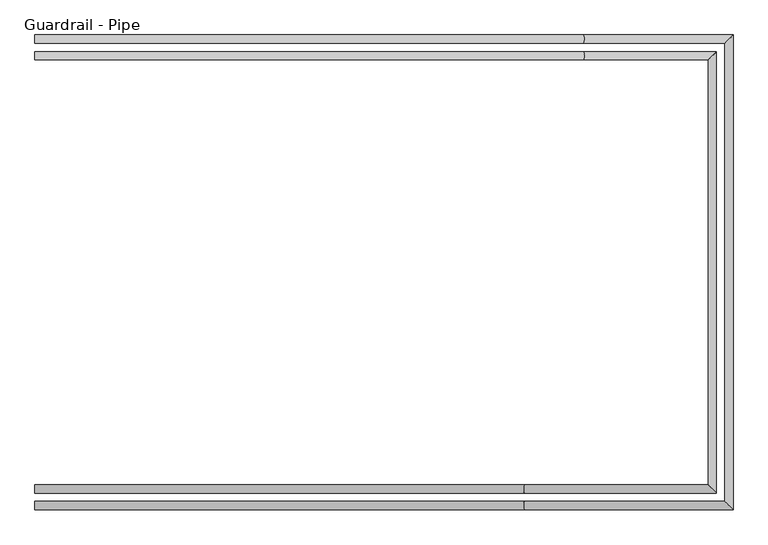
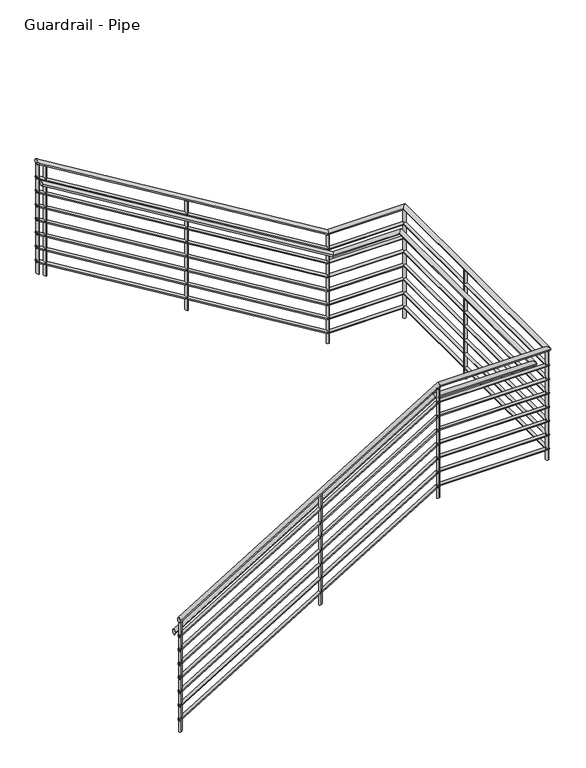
"""IFC4 building model written with IfcOpenShell, lengths in millimetres: railing geometry, Guardrail - Pipe."""

from ifc_helpers import new_model, si_unit, point, frame, frame_2d, origin, place, context, project, spatial, circle_curve, ellipse_curve, trimmed, segment, composite_curve, outline, extrude, source, transform, mapped, element, save
from ifc_brep_helpers import plane_surface, cylinder_surface, advanced_brep


def guardrail_pipe_6950e72b(model_context):
    return source(origin(), model_context, "Body", "SolidModel", [
        advanced_brep(
        [(-2912.5266552, 8373.427236, 1214.5008594), (-2912.5266552, 8335.327236, 1214.5008594), (-671.986597, 8373.427236, 2577.75), (-671.986597, 8335.327236, 2577.75), (243.4233448, 8373.427236, 2577.75), (281.5233448, 8335.327236, 2577.75), (243.4233448, 10468.927236, 2577.75), (281.5233448, 10507.027236, 2577.75), (-403.2667134, 10468.927236, 2577.75), (-403.2667134, 10507.027236, 2577.75), (-2912.5266552, 10468.927236, 4104.5008594), (-2912.5266552, 10507.027236, 4104.5008594)],
        [
            (0, 1, ellipse_curve(frame((-2912.5266552, 8354.377236, 1214.5008594), z_axis=(-1.0, 0.0, 0.0), x_axis=(0.0, 0.0, -1.0)), 22.2991406, 19.05)),
            (1, 0, ellipse_curve(frame((-2912.5266552, 8354.377236, 1214.5008594), z_axis=(-1.0, 0.0, 0.0), x_axis=(0.0, 0.0, -1.0)), 22.2991406, 19.05)),
            (0, 2),
            (2, 3, ellipse_curve(frame((-671.986597, 8354.377236, 2577.75), z_axis=(-0.9628844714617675, 0.0, -0.2699138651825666), x_axis=(0.2699138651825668, 0.0, -0.9628844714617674)), 19.7843049, 19.05)),
            (3, 1),
            (3, 2, ellipse_curve(frame((-671.986597, 8354.377236, 2577.75), z_axis=(-0.9628844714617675, 0.0, -0.2699138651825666), x_axis=(0.2699138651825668, 0.0, -0.9628844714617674)), 19.7843049, 19.05)),
            (2, 4),
            (4, 5, ellipse_curve(frame((262.4733448, 8354.377236, 2577.75), z_axis=(-0.7071067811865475, -0.7071067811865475, 0.0), x_axis=(-0.7071067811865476, 0.7071067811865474, 0.0)), 26.9407684, 19.05)),
            (5, 3),
            (5, 4, ellipse_curve(frame((262.4733448, 8354.377236, 2577.75), z_axis=(-0.7071067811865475, -0.7071067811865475, 0.0), x_axis=(-0.7071067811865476, 0.7071067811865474, 0.0)), 26.9407684, 19.05)),
            (4, 6),
            (6, 7, ellipse_curve(frame((262.4733448, 10487.977236, 2577.75), z_axis=(0.7071067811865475, -0.7071067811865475, 0.0), x_axis=(-0.7071067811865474, -0.7071067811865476, 0.0)), 26.9407684, 19.05)),
            (7, 5),
            (7, 6, ellipse_curve(frame((262.4733448, 10487.977236, 2577.75), z_axis=(0.7071067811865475, -0.7071067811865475, 0.0), x_axis=(-0.7071067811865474, -0.7071067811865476, 0.0)), 26.9407684, 19.05)),
            (6, 8),
            (8, 9, ellipse_curve(frame((-403.2667134, 10487.977236, 2577.75), z_axis=(0.9628844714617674, 0.0, -0.2699138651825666), x_axis=(0.2699138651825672, 0.0, 0.9628844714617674)), 19.7843049, 19.05)),
            (9, 7),
            (9, 8, ellipse_curve(frame((-403.2667134, 10487.977236, 2577.75), z_axis=(0.9628844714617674, 0.0, -0.2699138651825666), x_axis=(0.2699138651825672, 0.0, 0.9628844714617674)), 19.7843049, 19.05)),
            (10, 11, ellipse_curve(frame((-2912.5266552, 10487.977236, 4104.5008594), z_axis=(-1.0, 0.0, 0.0), x_axis=(0.0, 0.0, -1.0)), 22.2991406, 19.05)),
            (11, 10, ellipse_curve(frame((-2912.5266552, 10487.977236, 4104.5008594), z_axis=(-1.0, 0.0, 0.0), x_axis=(0.0, 0.0, -1.0)), 22.2991406, 19.05)),
            (8, 10),
            (11, 9),
        ],
        [
            plane_surface(frame((-2912.5266552, 8354.377236, 1236.8), z_axis=(-1.0, 0.0, 0.0), x_axis=(0.0, 1.0, 0.0))),
            cylinder_surface(frame((-2902.6246225, 8354.377236, 1220.5257181), z_axis=(-0.8542930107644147, 0.0, -0.5197917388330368), x_axis=(0.0, -1.0, 0.0)), 19.05),
            cylinder_surface(frame((-677.3266552, 8354.377236, 2577.75), z_axis=(-1.0, 0.0, 0.0), x_axis=(0.0, -1.0, 0.0)), 19.05),
            cylinder_surface(frame((262.4733448, 8354.377236, 2577.75), z_axis=(0.0, -1.0, 0.0), x_axis=(1.0, 0.0, 0.0)), 19.05),
            cylinder_surface(frame((262.4733448, 10487.977236, 2577.75), z_axis=(1.0, 0.0, 0.0), x_axis=(0.0, 1.0, 0.0)), 19.05),
            plane_surface(frame((-2912.5266552, 10487.977236, 4126.8), z_axis=(-1.0, 0.0, 0.0), x_axis=(0.0, -1.0, 0.0))),
            cylinder_surface(frame((-407.8286878, 10487.977236, 2580.5257181), z_axis=(0.8542930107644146, 0.0, -0.5197917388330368), x_axis=(0.0, 1.0, 0.0)), 19.05),
        ],
        [
            (0, [[1, 2]]),
            (1, [[-1, 3, 4, 5]]),
            (1, [[-2, -5, 6, -3]]),
            (2, [[-4, 7, 8, 9]]),
            (2, [[-6, -9, 10, -7]]),
            (3, [[-8, 11, 12, 13]]),
            (3, [[-10, -13, 14, -11]]),
            (4, [[-12, 15, 16, 17]]),
            (4, [[-14, -17, 18, -15]]),
            (5, [[19, 20]]),
            (6, [[-16, 21, -20, 22]]),
            (6, [[-18, -22, -19, -21]]),
        ],
    ),
        advanced_brep(
        [(-2912.5266552, 8367.077236, 1069.5339062), (-2912.5266552, 8341.677236, 1069.5339062), (-673.7666164, 8367.077236, 2431.7), (-673.7666164, 8341.677236, 2431.7), (249.7733448, 8367.077236, 2431.7), (275.1733448, 8341.677236, 2431.7), (249.7733448, 10475.277236, 2431.7), (275.1733448, 10500.677236, 2431.7), (-401.486694, 10475.277236, 2431.7), (-401.486694, 10500.677236, 2431.7), (-2912.5266552, 10475.277236, 3959.5339062), (-2912.5266552, 10500.677236, 3959.5339062)],
        [
            (0, 1, ellipse_curve(frame((-2912.5266552, 8354.377236, 1069.5339062), z_axis=(-1.0, 0.0, 0.0), x_axis=(0.0, 0.0, -1.0)), 14.8660938, 12.7)),
            (1, 0, ellipse_curve(frame((-2912.5266552, 8354.377236, 1069.5339062), z_axis=(-1.0, 0.0, 0.0), x_axis=(0.0, 0.0, -1.0)), 14.8660938, 12.7)),
            (0, 2),
            (2, 3, ellipse_curve(frame((-673.7666164, 8354.377236, 2431.7), z_axis=(-0.9628844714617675, 0.0, -0.2699138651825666), x_axis=(0.2699138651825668, 0.0, -0.9628844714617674)), 13.1895366, 12.7)),
            (3, 1),
            (3, 2, ellipse_curve(frame((-673.7666164, 8354.377236, 2431.7), z_axis=(-0.9628844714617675, 0.0, -0.2699138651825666), x_axis=(0.2699138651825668, 0.0, -0.9628844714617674)), 13.1895366, 12.7)),
            (2, 4),
            (4, 5, ellipse_curve(frame((262.4733448, 8354.377236, 2431.7), z_axis=(-0.7071067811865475, -0.7071067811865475, 0.0), x_axis=(-0.7071067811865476, 0.7071067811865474, 0.0)), 17.9605122, 12.7)),
            (5, 3),
            (5, 4, ellipse_curve(frame((262.4733448, 8354.377236, 2431.7), z_axis=(-0.7071067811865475, -0.7071067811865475, 0.0), x_axis=(-0.7071067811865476, 0.7071067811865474, 0.0)), 17.9605122, 12.7)),
            (4, 6),
            (6, 7, ellipse_curve(frame((262.4733448, 10487.977236, 2431.7), z_axis=(0.7071067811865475, -0.7071067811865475, 0.0), x_axis=(-0.7071067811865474, -0.7071067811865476, 0.0)), 17.9605122, 12.7)),
            (7, 5),
            (7, 6, ellipse_curve(frame((262.4733448, 10487.977236, 2431.7), z_axis=(0.7071067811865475, -0.7071067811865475, 0.0), x_axis=(-0.7071067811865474, -0.7071067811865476, 0.0)), 17.9605122, 12.7)),
            (6, 8),
            (8, 9, ellipse_curve(frame((-401.486694, 10487.977236, 2431.7), z_axis=(0.9628844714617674, 0.0, -0.2699138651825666), x_axis=(0.2699138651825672, 0.0, 0.9628844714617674)), 13.1895366, 12.7)),
            (9, 7),
            (9, 8, ellipse_curve(frame((-401.486694, 10487.977236, 2431.7), z_axis=(0.9628844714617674, 0.0, -0.2699138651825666), x_axis=(0.2699138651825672, 0.0, 0.9628844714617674)), 13.1895366, 12.7)),
            (10, 11, ellipse_curve(frame((-2912.5266552, 10487.977236, 3959.5339062), z_axis=(-1.0, 0.0, 0.0), x_axis=(0.0, 0.0, -1.0)), 14.8660938, 12.7)),
            (11, 10, ellipse_curve(frame((-2912.5266552, 10487.977236, 3959.5339062), z_axis=(-1.0, 0.0, 0.0), x_axis=(0.0, 0.0, -1.0)), 14.8660938, 12.7)),
            (8, 10),
            (11, 9),
        ],
        [
            plane_surface(frame((-2912.5266552, 8354.377236, 1084.4), z_axis=(-1.0, 0.0, 0.0), x_axis=(0.0, 1.0, 0.0))),
            cylinder_surface(frame((-2905.9253001, 8354.377236, 1073.5504788), z_axis=(-0.8542930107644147, 0.0, -0.5197917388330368), x_axis=(0.0, -1.0, 0.0)), 12.7),
            cylinder_surface(frame((-677.3266552, 8354.377236, 2431.7), z_axis=(-1.0, 0.0, 0.0), x_axis=(0.0, -1.0, 0.0)), 12.7),
            cylinder_surface(frame((262.4733448, 8354.377236, 2431.7), z_axis=(0.0, -1.0, 0.0), x_axis=(1.0, 0.0, 0.0)), 12.7),
            cylinder_surface(frame((262.4733448, 10487.977236, 2431.7), z_axis=(1.0, 0.0, 0.0), x_axis=(0.0, 1.0, 0.0)), 12.7),
            plane_surface(frame((-2912.5266552, 10487.977236, 3974.4), z_axis=(-1.0, 0.0, 0.0), x_axis=(0.0, -1.0, 0.0))),
            cylinder_surface(frame((-404.5280103, 10487.977236, 2433.5504788), z_axis=(0.8542930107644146, 0.0, -0.5197917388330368), x_axis=(0.0, 1.0, 0.0)), 12.7),
        ],
        [
            (0, [[1, 2]]),
            (1, [[-1, 3, 4, 5]]),
            (1, [[-2, -5, 6, -3]]),
            (2, [[-4, 7, 8, 9]]),
            (2, [[-6, -9, 10, -7]]),
            (3, [[-8, 11, 12, 13]]),
            (3, [[-10, -13, 14, -11]]),
            (4, [[-12, 15, 16, 17]]),
            (4, [[-14, -17, 18, -15]]),
            (5, [[19, 20]]),
            (6, [[-16, 21, -20, 22]]),
            (6, [[-18, -22, -19, -21]]),
        ],
    ),
        advanced_brep(
        [(-2912.5266552, 8449.627236, 1062.1008594), (-2912.5266552, 8411.527236, 1062.1008594), (-671.986597, 8449.627236, 2425.35), (-671.986597, 8411.527236, 2425.35), (167.2233448, 8449.627236, 2425.35), (205.3233448, 8411.527236, 2425.35), (167.2233448, 10392.727236, 2425.35), (205.3233448, 10430.827236, 2425.35), (-403.2667134, 10392.727236, 2425.35), (-403.2667134, 10430.827236, 2425.35), (-2912.5266552, 10392.727236, 3952.1008594), (-2912.5266552, 10430.827236, 3952.1008594)],
        [
            (0, 1, ellipse_curve(frame((-2912.5266552, 8430.577236, 1062.1008594), z_axis=(-1.0, 0.0, 0.0), x_axis=(0.0, 0.0, -1.0)), 22.2991406, 19.05)),
            (1, 0, ellipse_curve(frame((-2912.5266552, 8430.577236, 1062.1008594), z_axis=(-1.0, 0.0, 0.0), x_axis=(0.0, 0.0, -1.0)), 22.2991406, 19.05)),
            (0, 2),
            (2, 3, ellipse_curve(frame((-671.986597, 8430.577236, 2425.35), z_axis=(-0.9628844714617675, 0.0, -0.2699138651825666), x_axis=(0.2699138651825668, 0.0, -0.9628844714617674)), 19.7843049, 19.05)),
            (3, 1),
            (3, 2, ellipse_curve(frame((-671.986597, 8430.577236, 2425.35), z_axis=(-0.9628844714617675, 0.0, -0.2699138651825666), x_axis=(0.2699138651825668, 0.0, -0.9628844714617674)), 19.7843049, 19.05)),
            (2, 4),
            (4, 5, ellipse_curve(frame((186.2733448, 8430.577236, 2425.35), z_axis=(-0.7071067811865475, -0.7071067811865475, 0.0), x_axis=(-0.7071067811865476, 0.7071067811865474, 0.0)), 26.9407684, 19.05)),
            (5, 3),
            (5, 4, ellipse_curve(frame((186.2733448, 8430.577236, 2425.35), z_axis=(-0.7071067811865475, -0.7071067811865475, 0.0), x_axis=(-0.7071067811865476, 0.7071067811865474, 0.0)), 26.9407684, 19.05)),
            (4, 6),
            (6, 7, ellipse_curve(frame((186.2733448, 10411.777236, 2425.35), z_axis=(0.7071067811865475, -0.7071067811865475, 0.0), x_axis=(-0.7071067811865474, -0.7071067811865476, 0.0)), 26.9407684, 19.05)),
            (7, 5),
            (7, 6, ellipse_curve(frame((186.2733448, 10411.777236, 2425.35), z_axis=(0.7071067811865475, -0.7071067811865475, 0.0), x_axis=(-0.7071067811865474, -0.7071067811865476, 0.0)), 26.9407684, 19.05)),
            (6, 8),
            (8, 9, ellipse_curve(frame((-403.2667134, 10411.777236, 2425.35), z_axis=(0.9628844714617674, 0.0, -0.2699138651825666), x_axis=(0.2699138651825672, 0.0, 0.9628844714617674)), 19.7843049, 19.05)),
            (9, 7),
            (9, 8, ellipse_curve(frame((-403.2667134, 10411.777236, 2425.35), z_axis=(0.9628844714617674, 0.0, -0.2699138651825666), x_axis=(0.2699138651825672, 0.0, 0.9628844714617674)), 19.7843049, 19.05)),
            (10, 11, ellipse_curve(frame((-2912.5266552, 10411.777236, 3952.1008594), z_axis=(-1.0, 0.0, 0.0), x_axis=(0.0, 0.0, -1.0)), 22.2991406, 19.05)),
            (11, 10, ellipse_curve(frame((-2912.5266552, 10411.777236, 3952.1008594), z_axis=(-1.0, 0.0, 0.0), x_axis=(0.0, 0.0, -1.0)), 22.2991406, 19.05)),
            (8, 10),
            (11, 9),
        ],
        [
            plane_surface(frame((-2912.5266552, 8430.577236, 1084.4), z_axis=(-1.0, 0.0, 0.0), x_axis=(0.0, 1.0, 0.0))),
            cylinder_surface(frame((-2902.6246225, 8430.577236, 1068.1257181), z_axis=(-0.8542930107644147, 0.0, -0.5197917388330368), x_axis=(0.0, -1.0, 0.0)), 19.05),
            cylinder_surface(frame((-677.3266552, 8430.577236, 2425.35), z_axis=(-1.0, 0.0, 0.0), x_axis=(0.0, -1.0, 0.0)), 19.05),
            cylinder_surface(frame((186.2733448, 8430.577236, 2425.35), z_axis=(0.0, -1.0, 0.0), x_axis=(1.0, 0.0, 0.0)), 19.05),
            cylinder_surface(frame((186.2733448, 10411.777236, 2425.35), z_axis=(1.0, 0.0, 0.0), x_axis=(0.0, 1.0, 0.0)), 19.05),
            plane_surface(frame((-2912.5266552, 10411.777236, 3974.4), z_axis=(-1.0, 0.0, 0.0), x_axis=(0.0, -1.0, 0.0))),
            cylinder_surface(frame((-407.8286878, 10411.777236, 2428.1257181), z_axis=(0.8542930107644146, 0.0, -0.5197917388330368), x_axis=(0.0, 1.0, 0.0)), 19.05),
        ],
        [
            (0, [[1, 2]]),
            (1, [[-1, 3, 4, 5]]),
            (1, [[-2, -5, 6, -3]]),
            (2, [[-4, 7, 8, 9]]),
            (2, [[-6, -9, 10, -7]]),
            (3, [[-8, 11, 12, 13]]),
            (3, [[-10, -13, 14, -11]]),
            (4, [[-12, 15, 16, 17]]),
            (4, [[-14, -17, 18, -15]]),
            (5, [[19, 20]]),
            (6, [[-16, 21, -20, 22]]),
            (6, [[-18, -22, -19, -21]]),
        ],
    ),
        advanced_brep(
        [(-2912.5266552, 8367.077236, 942.5339062), (-2912.5266552, 8341.677236, 942.5339062), (-673.7666164, 8367.077236, 2304.7), (-673.7666164, 8341.677236, 2304.7), (249.7733448, 8367.077236, 2304.7), (275.1733448, 8341.677236, 2304.7), (249.7733448, 10475.277236, 2304.7), (275.1733448, 10500.677236, 2304.7), (-401.486694, 10475.277236, 2304.7), (-401.486694, 10500.677236, 2304.7), (-2912.5266552, 10475.277236, 3832.5339062), (-2912.5266552, 10500.677236, 3832.5339062)],
        [
            (0, 1, ellipse_curve(frame((-2912.5266552, 8354.377236, 942.5339062), z_axis=(-1.0, 0.0, 0.0), x_axis=(0.0, 0.0, -1.0)), 14.8660938, 12.7)),
            (1, 0, ellipse_curve(frame((-2912.5266552, 8354.377236, 942.5339062), z_axis=(-1.0, 0.0, 0.0), x_axis=(0.0, 0.0, -1.0)), 14.8660938, 12.7)),
            (0, 2),
            (2, 3, ellipse_curve(frame((-673.7666164, 8354.377236, 2304.7), z_axis=(-0.9628844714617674, 0.0, -0.2699138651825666), x_axis=(0.269913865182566, 0.0, -0.9628844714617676)), 13.1895366, 12.7)),
            (3, 1),
            (3, 2, ellipse_curve(frame((-673.7666164, 8354.377236, 2304.7), z_axis=(-0.9628844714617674, 0.0, -0.2699138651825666), x_axis=(0.269913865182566, 0.0, -0.9628844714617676)), 13.1895366, 12.7)),
            (2, 4),
            (4, 5, ellipse_curve(frame((262.4733448, 8354.377236, 2304.7), z_axis=(-0.7071067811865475, -0.7071067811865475, 0.0), x_axis=(-0.7071067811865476, 0.7071067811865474, 0.0)), 17.9605122, 12.7)),
            (5, 3),
            (5, 4, ellipse_curve(frame((262.4733448, 8354.377236, 2304.7), z_axis=(-0.7071067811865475, -0.7071067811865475, 0.0), x_axis=(-0.7071067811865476, 0.7071067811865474, 0.0)), 17.9605122, 12.7)),
            (4, 6),
            (6, 7, ellipse_curve(frame((262.4733448, 10487.977236, 2304.7), z_axis=(0.7071067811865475, -0.7071067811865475, 0.0), x_axis=(-0.7071067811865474, -0.7071067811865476, 0.0)), 17.9605122, 12.7)),
            (7, 5),
            (7, 6, ellipse_curve(frame((262.4733448, 10487.977236, 2304.7), z_axis=(0.7071067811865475, -0.7071067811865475, 0.0), x_axis=(-0.7071067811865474, -0.7071067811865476, 0.0)), 17.9605122, 12.7)),
            (6, 8),
            (8, 9, ellipse_curve(frame((-401.486694, 10487.977236, 2304.7), z_axis=(0.9628844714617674, 0.0, -0.2699138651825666), x_axis=(0.2699138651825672, 0.0, 0.9628844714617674)), 13.1895366, 12.7)),
            (9, 7),
            (9, 8, ellipse_curve(frame((-401.486694, 10487.977236, 2304.7), z_axis=(0.9628844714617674, 0.0, -0.2699138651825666), x_axis=(0.2699138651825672, 0.0, 0.9628844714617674)), 13.1895366, 12.7)),
            (10, 11, ellipse_curve(frame((-2912.5266552, 10487.977236, 3832.5339062), z_axis=(-1.0, 0.0, 0.0), x_axis=(0.0, 0.0, -1.0)), 14.8660938, 12.7)),
            (11, 10, ellipse_curve(frame((-2912.5266552, 10487.977236, 3832.5339062), z_axis=(-1.0, 0.0, 0.0), x_axis=(0.0, 0.0, -1.0)), 14.8660938, 12.7)),
            (8, 10),
            (11, 9),
        ],
        [
            plane_surface(frame((-2912.5266552, 8354.377236, 957.4), z_axis=(-1.0, 0.0, 0.0), x_axis=(0.0, 1.0, 0.0))),
            cylinder_surface(frame((-2905.9253001, 8354.377236, 946.5504788), z_axis=(-0.8542930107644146, 0.0, -0.5197917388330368), x_axis=(0.0, -1.0, 0.0)), 12.7),
            cylinder_surface(frame((-677.3266552, 8354.377236, 2304.7), z_axis=(-1.0, 0.0, 0.0), x_axis=(0.0, -1.0, 0.0)), 12.7),
            cylinder_surface(frame((262.4733448, 8354.377236, 2304.7), z_axis=(0.0, -1.0, 0.0), x_axis=(1.0, 0.0, 0.0)), 12.7),
            cylinder_surface(frame((262.4733448, 10487.977236, 2304.7), z_axis=(1.0, 0.0, 0.0), x_axis=(0.0, 1.0, 0.0)), 12.7),
            plane_surface(frame((-2912.5266552, 10487.977236, 3847.4), z_axis=(-1.0, 0.0, 0.0), x_axis=(0.0, -1.0, 0.0))),
            cylinder_surface(frame((-404.5280103, 10487.977236, 2306.5504788), z_axis=(0.8542930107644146, 0.0, -0.5197917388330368), x_axis=(0.0, 1.0, 0.0)), 12.7),
        ],
        [
            (0, [[1, 2]]),
            (1, [[-1, 3, 4, 5]]),
            (1, [[-2, -5, 6, -3]]),
            (2, [[-4, 7, 8, 9]]),
            (2, [[-6, -9, 10, -7]]),
            (3, [[-8, 11, 12, 13]]),
            (3, [[-10, -13, 14, -11]]),
            (4, [[-12, 15, 16, 17]]),
            (4, [[-14, -17, 18, -15]]),
            (5, [[19, 20]]),
            (6, [[-16, 21, -20, 22]]),
            (6, [[-18, -22, -19, -21]]),
        ],
    ),
        advanced_brep(
        [(-2912.5266552, 8367.077236, 815.5339062), (-2912.5266552, 8341.677236, 815.5339062), (-673.7666164, 8367.077236, 2177.7), (-673.7666164, 8341.677236, 2177.7), (249.7733448, 8367.077236, 2177.7), (275.1733448, 8341.677236, 2177.7), (249.7733448, 10475.277236, 2177.7), (275.1733448, 10500.677236, 2177.7), (-401.486694, 10475.277236, 2177.7), (-401.486694, 10500.677236, 2177.7), (-2912.5266552, 10475.277236, 3705.5339062), (-2912.5266552, 10500.677236, 3705.5339062)],
        [
            (0, 1, ellipse_curve(frame((-2912.5266552, 8354.377236, 815.5339062), z_axis=(-1.0, 0.0, 0.0), x_axis=(0.0, 0.0, -1.0)), 14.8660938, 12.7)),
            (1, 0, ellipse_curve(frame((-2912.5266552, 8354.377236, 815.5339062), z_axis=(-1.0, 0.0, 0.0), x_axis=(0.0, 0.0, -1.0)), 14.8660938, 12.7)),
            (0, 2),
            (2, 3, ellipse_curve(frame((-673.7666164, 8354.377236, 2177.7), z_axis=(-0.9628844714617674, 0.0, -0.2699138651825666), x_axis=(0.2699138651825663, 0.0, -0.9628844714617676)), 13.1895366, 12.7)),
            (3, 1),
            (3, 2, ellipse_curve(frame((-673.7666164, 8354.377236, 2177.7), z_axis=(-0.9628844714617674, 0.0, -0.2699138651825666), x_axis=(0.2699138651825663, 0.0, -0.9628844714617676)), 13.1895366, 12.7)),
            (2, 4),
            (4, 5, ellipse_curve(frame((262.4733448, 8354.377236, 2177.7), z_axis=(-0.7071067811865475, -0.7071067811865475, 0.0), x_axis=(-0.7071067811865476, 0.7071067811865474, 0.0)), 17.9605122, 12.7)),
            (5, 3),
            (5, 4, ellipse_curve(frame((262.4733448, 8354.377236, 2177.7), z_axis=(-0.7071067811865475, -0.7071067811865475, 0.0), x_axis=(-0.7071067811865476, 0.7071067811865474, 0.0)), 17.9605122, 12.7)),
            (4, 6),
            (6, 7, ellipse_curve(frame((262.4733448, 10487.977236, 2177.7), z_axis=(0.7071067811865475, -0.7071067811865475, 0.0), x_axis=(-0.7071067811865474, -0.7071067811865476, 0.0)), 17.9605122, 12.7)),
            (7, 5),
            (7, 6, ellipse_curve(frame((262.4733448, 10487.977236, 2177.7), z_axis=(0.7071067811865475, -0.7071067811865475, 0.0), x_axis=(-0.7071067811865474, -0.7071067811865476, 0.0)), 17.9605122, 12.7)),
            (6, 8),
            (8, 9, ellipse_curve(frame((-401.486694, 10487.977236, 2177.7), z_axis=(0.9628844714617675, 0.0, -0.2699138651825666), x_axis=(0.2699138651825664, 0.0, 0.9628844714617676)), 13.1895366, 12.7)),
            (9, 7),
            (9, 8, ellipse_curve(frame((-401.486694, 10487.977236, 2177.7), z_axis=(0.9628844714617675, 0.0, -0.2699138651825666), x_axis=(0.2699138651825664, 0.0, 0.9628844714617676)), 13.1895366, 12.7)),
            (10, 11, ellipse_curve(frame((-2912.5266552, 10487.977236, 3705.5339062), z_axis=(-1.0, 0.0, 0.0), x_axis=(0.0, 0.0, -1.0)), 14.8660938, 12.7)),
            (11, 10, ellipse_curve(frame((-2912.5266552, 10487.977236, 3705.5339062), z_axis=(-1.0, 0.0, 0.0), x_axis=(0.0, 0.0, -1.0)), 14.8660938, 12.7)),
            (8, 10),
            (11, 9),
        ],
        [
            plane_surface(frame((-2912.5266552, 8354.377236, 830.4), z_axis=(-1.0, 0.0, 0.0), x_axis=(0.0, 1.0, 0.0))),
            cylinder_surface(frame((-2905.9253001, 8354.377236, 819.5504788), z_axis=(-0.8542930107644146, 0.0, -0.5197917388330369), x_axis=(0.0, -1.0, 0.0)), 12.7),
            cylinder_surface(frame((-677.3266552, 8354.377236, 2177.7), z_axis=(-1.0, 0.0, 0.0), x_axis=(0.0, -1.0, 0.0)), 12.7),
            cylinder_surface(frame((262.4733448, 8354.377236, 2177.7), z_axis=(0.0, -1.0, 0.0), x_axis=(1.0, 0.0, 0.0)), 12.7),
            cylinder_surface(frame((262.4733448, 10487.977236, 2177.7), z_axis=(1.0, 0.0, 0.0), x_axis=(0.0, 1.0, 0.0)), 12.7),
            plane_surface(frame((-2912.5266552, 10487.977236, 3720.4), z_axis=(-1.0, 0.0, 0.0), x_axis=(0.0, -1.0, 0.0))),
            cylinder_surface(frame((-404.5280103, 10487.977236, 2179.5504788), z_axis=(0.8542930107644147, 0.0, -0.5197917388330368), x_axis=(0.0, 1.0, 0.0)), 12.7),
        ],
        [
            (0, [[1, 2]]),
            (1, [[-1, 3, 4, 5]]),
            (1, [[-2, -5, 6, -3]]),
            (2, [[-4, 7, 8, 9]]),
            (2, [[-6, -9, 10, -7]]),
            (3, [[-8, 11, 12, 13]]),
            (3, [[-10, -13, 14, -11]]),
            (4, [[-12, 15, 16, 17]]),
            (4, [[-14, -17, 18, -15]]),
            (5, [[19, 20]]),
            (6, [[-16, 21, -20, 22]]),
            (6, [[-18, -22, -19, -21]]),
        ],
    ),
        advanced_brep(
        [(-2912.5266552, 8367.077236, 688.5339062), (-2912.5266552, 8341.677236, 688.5339062), (-673.7666164, 8367.077236, 2050.7), (-673.7666164, 8341.677236, 2050.7), (249.7733448, 8367.077236, 2050.7), (275.1733448, 8341.677236, 2050.7), (249.7733448, 10475.277236, 2050.7), (275.1733448, 10500.677236, 2050.7), (-401.486694, 10475.277236, 2050.7), (-401.486694, 10500.677236, 2050.7), (-2912.5266552, 10475.277236, 3578.5339062), (-2912.5266552, 10500.677236, 3578.5339062)],
        [
            (0, 1, ellipse_curve(frame((-2912.5266552, 8354.377236, 688.5339062), z_axis=(-1.0, 0.0, 0.0), x_axis=(0.0, 0.0, -1.0)), 14.8660938, 12.7)),
            (1, 0, ellipse_curve(frame((-2912.5266552, 8354.377236, 688.5339062), z_axis=(-1.0, 0.0, 0.0), x_axis=(0.0, 0.0, -1.0)), 14.8660938, 12.7)),
            (0, 2),
            (2, 3, ellipse_curve(frame((-673.7666164, 8354.377236, 2050.7), z_axis=(-0.9628844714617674, 0.0, -0.2699138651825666), x_axis=(0.269913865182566, 0.0, -0.9628844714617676)), 13.1895366, 12.7)),
            (3, 1),
            (3, 2, ellipse_curve(frame((-673.7666164, 8354.377236, 2050.7), z_axis=(-0.9628844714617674, 0.0, -0.2699138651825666), x_axis=(0.269913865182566, 0.0, -0.9628844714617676)), 13.1895366, 12.7)),
            (2, 4),
            (4, 5, ellipse_curve(frame((262.4733448, 8354.377236, 2050.7), z_axis=(-0.7071067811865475, -0.7071067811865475, 0.0), x_axis=(-0.7071067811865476, 0.7071067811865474, 0.0)), 17.9605122, 12.7)),
            (5, 3),
            (5, 4, ellipse_curve(frame((262.4733448, 8354.377236, 2050.7), z_axis=(-0.7071067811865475, -0.7071067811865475, 0.0), x_axis=(-0.7071067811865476, 0.7071067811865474, 0.0)), 17.9605122, 12.7)),
            (4, 6),
            (6, 7, ellipse_curve(frame((262.4733448, 10487.977236, 2050.7), z_axis=(0.7071067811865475, -0.7071067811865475, 0.0), x_axis=(-0.7071067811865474, -0.7071067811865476, 0.0)), 17.9605122, 12.7)),
            (7, 5),
            (7, 6, ellipse_curve(frame((262.4733448, 10487.977236, 2050.7), z_axis=(0.7071067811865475, -0.7071067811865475, 0.0), x_axis=(-0.7071067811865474, -0.7071067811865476, 0.0)), 17.9605122, 12.7)),
            (6, 8),
            (8, 9, ellipse_curve(frame((-401.486694, 10487.977236, 2050.7), z_axis=(0.9628844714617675, 0.0, -0.2699138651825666), x_axis=(0.2699138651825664, 0.0, 0.9628844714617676)), 13.1895366, 12.7)),
            (9, 7),
            (9, 8, ellipse_curve(frame((-401.486694, 10487.977236, 2050.7), z_axis=(0.9628844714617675, 0.0, -0.2699138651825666), x_axis=(0.2699138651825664, 0.0, 0.9628844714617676)), 13.1895366, 12.7)),
            (10, 11, ellipse_curve(frame((-2912.5266552, 10487.977236, 3578.5339062), z_axis=(-1.0, 0.0, 0.0), x_axis=(0.0, 0.0, -1.0)), 14.8660938, 12.7)),
            (11, 10, ellipse_curve(frame((-2912.5266552, 10487.977236, 3578.5339062), z_axis=(-1.0, 0.0, 0.0), x_axis=(0.0, 0.0, -1.0)), 14.8660938, 12.7)),
            (8, 10),
            (11, 9),
        ],
        [
            plane_surface(frame((-2912.5266552, 8354.377236, 703.4), z_axis=(-1.0, 0.0, 0.0), x_axis=(0.0, 1.0, 0.0))),
            cylinder_surface(frame((-2905.9253001, 8354.377236, 692.5504788), z_axis=(-0.8542930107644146, 0.0, -0.5197917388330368), x_axis=(0.0, -1.0, 0.0)), 12.7),
            cylinder_surface(frame((-677.3266552, 8354.377236, 2050.7), z_axis=(-1.0, 0.0, 0.0), x_axis=(0.0, -1.0, 0.0)), 12.7),
            cylinder_surface(frame((262.4733448, 8354.377236, 2050.7), z_axis=(0.0, -1.0, 0.0), x_axis=(1.0, 0.0, 0.0)), 12.7),
            cylinder_surface(frame((262.4733448, 10487.977236, 2050.7), z_axis=(1.0, 0.0, 0.0), x_axis=(0.0, 1.0, 0.0)), 12.7),
            plane_surface(frame((-2912.5266552, 10487.977236, 3593.4), z_axis=(-1.0, 0.0, 0.0), x_axis=(0.0, -1.0, 0.0))),
            cylinder_surface(frame((-404.5280103, 10487.977236, 2052.5504788), z_axis=(0.8542930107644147, 0.0, -0.5197917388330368), x_axis=(0.0, 1.0, 0.0)), 12.7),
        ],
        [
            (0, [[1, 2]]),
            (1, [[-1, 3, 4, 5]]),
            (1, [[-2, -5, 6, -3]]),
            (2, [[-4, 7, 8, 9]]),
            (2, [[-6, -9, 10, -7]]),
            (3, [[-8, 11, 12, 13]]),
            (3, [[-10, -13, 14, -11]]),
            (4, [[-12, 15, 16, 17]]),
            (4, [[-14, -17, 18, -15]]),
            (5, [[19, 20]]),
            (6, [[-16, 21, -20, 22]]),
            (6, [[-18, -22, -19, -21]]),
        ],
    ),
        advanced_brep(
        [(-2912.5266552, 8367.077236, 561.5339062), (-2912.5266552, 8341.677236, 561.5339062), (-673.7666164, 8367.077236, 1923.7), (-673.7666164, 8341.677236, 1923.7), (249.7733448, 8367.077236, 1923.7), (275.1733448, 8341.677236, 1923.7), (249.7733448, 10475.277236, 1923.7), (275.1733448, 10500.677236, 1923.7), (-401.486694, 10475.277236, 1923.7), (-401.486694, 10500.677236, 1923.7), (-2912.5266552, 10475.277236, 3451.5339062), (-2912.5266552, 10500.677236, 3451.5339062)],
        [
            (0, 1, ellipse_curve(frame((-2912.5266552, 8354.377236, 561.5339062), z_axis=(-1.0, 0.0, 0.0), x_axis=(0.0, 0.0, -1.0)), 14.8660938, 12.7)),
            (1, 0, ellipse_curve(frame((-2912.5266552, 8354.377236, 561.5339062), z_axis=(-1.0, 0.0, 0.0), x_axis=(0.0, 0.0, -1.0)), 14.8660938, 12.7)),
            (0, 2),
            (2, 3, ellipse_curve(frame((-673.7666164, 8354.377236, 1923.7), z_axis=(-0.9628844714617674, 0.0, -0.2699138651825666), x_axis=(0.269913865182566, 0.0, -0.9628844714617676)), 13.1895366, 12.7)),
            (3, 1),
            (3, 2, ellipse_curve(frame((-673.7666164, 8354.377236, 1923.7), z_axis=(-0.9628844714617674, 0.0, -0.2699138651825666), x_axis=(0.269913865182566, 0.0, -0.9628844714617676)), 13.1895366, 12.7)),
            (2, 4),
            (4, 5, ellipse_curve(frame((262.4733448, 8354.377236, 1923.7), z_axis=(-0.7071067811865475, -0.7071067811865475, 0.0), x_axis=(-0.7071067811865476, 0.7071067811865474, 0.0)), 17.9605122, 12.7)),
            (5, 3),
            (5, 4, ellipse_curve(frame((262.4733448, 8354.377236, 1923.7), z_axis=(-0.7071067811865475, -0.7071067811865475, 0.0), x_axis=(-0.7071067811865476, 0.7071067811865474, 0.0)), 17.9605122, 12.7)),
            (4, 6),
            (6, 7, ellipse_curve(frame((262.4733448, 10487.977236, 1923.7), z_axis=(0.7071067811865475, -0.7071067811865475, 0.0), x_axis=(-0.7071067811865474, -0.7071067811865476, 0.0)), 17.9605122, 12.7)),
            (7, 5),
            (7, 6, ellipse_curve(frame((262.4733448, 10487.977236, 1923.7), z_axis=(0.7071067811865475, -0.7071067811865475, 0.0), x_axis=(-0.7071067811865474, -0.7071067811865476, 0.0)), 17.9605122, 12.7)),
            (6, 8),
            (8, 9, ellipse_curve(frame((-401.486694, 10487.977236, 1923.7), z_axis=(0.9628844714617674, 0.0, -0.2699138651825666), x_axis=(0.2699138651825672, 0.0, 0.9628844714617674)), 13.1895366, 12.7)),
            (9, 7),
            (9, 8, ellipse_curve(frame((-401.486694, 10487.977236, 1923.7), z_axis=(0.9628844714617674, 0.0, -0.2699138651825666), x_axis=(0.2699138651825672, 0.0, 0.9628844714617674)), 13.1895366, 12.7)),
            (10, 11, ellipse_curve(frame((-2912.5266552, 10487.977236, 3451.5339062), z_axis=(-1.0, 0.0, 0.0), x_axis=(0.0, 0.0, -1.0)), 14.8660938, 12.7)),
            (11, 10, ellipse_curve(frame((-2912.5266552, 10487.977236, 3451.5339062), z_axis=(-1.0, 0.0, 0.0), x_axis=(0.0, 0.0, -1.0)), 14.8660938, 12.7)),
            (8, 10),
            (11, 9),
        ],
        [
            plane_surface(frame((-2912.5266552, 8354.377236, 576.4), z_axis=(-1.0, 0.0, 0.0), x_axis=(0.0, 1.0, 0.0))),
            cylinder_surface(frame((-2905.9253001, 8354.377236, 565.5504788), z_axis=(-0.8542930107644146, 0.0, -0.5197917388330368), x_axis=(0.0, -1.0, 0.0)), 12.7),
            cylinder_surface(frame((-677.3266552, 8354.377236, 1923.7), z_axis=(-1.0, 0.0, 0.0), x_axis=(0.0, -1.0, 0.0)), 12.7),
            cylinder_surface(frame((262.4733448, 8354.377236, 1923.7), z_axis=(0.0, -1.0, 0.0), x_axis=(1.0, 0.0, 0.0)), 12.7),
            cylinder_surface(frame((262.4733448, 10487.977236, 1923.7), z_axis=(1.0, 0.0, 0.0), x_axis=(0.0, 1.0, 0.0)), 12.7),
            plane_surface(frame((-2912.5266552, 10487.977236, 3466.4), z_axis=(-1.0, 0.0, 0.0), x_axis=(0.0, -1.0, 0.0))),
            cylinder_surface(frame((-404.5280103, 10487.977236, 1925.5504788), z_axis=(0.8542930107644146, 0.0, -0.5197917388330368), x_axis=(0.0, 1.0, 0.0)), 12.7),
        ],
        [
            (0, [[1, 2]]),
            (1, [[-1, 3, 4, 5]]),
            (1, [[-2, -5, 6, -3]]),
            (2, [[-4, 7, 8, 9]]),
            (2, [[-6, -9, 10, -7]]),
            (3, [[-8, 11, 12, 13]]),
            (3, [[-10, -13, 14, -11]]),
            (4, [[-12, 15, 16, 17]]),
            (4, [[-14, -17, 18, -15]]),
            (5, [[19, 20]]),
            (6, [[-16, 21, -20, 22]]),
            (6, [[-18, -22, -19, -21]]),
        ],
    ),
        advanced_brep(
        [(-2912.5266552, 8367.077236, 434.5339062), (-2912.5266552, 8341.677236, 434.5339062), (-673.7666164, 8367.077236, 1796.7), (-673.7666164, 8341.677236, 1796.7), (249.7733448, 8367.077236, 1796.7), (275.1733448, 8341.677236, 1796.7), (249.7733448, 10475.277236, 1796.7), (275.1733448, 10500.677236, 1796.7), (-401.486694, 10475.277236, 1796.7), (-401.486694, 10500.677236, 1796.7), (-2912.5266552, 10475.277236, 3324.5339062), (-2912.5266552, 10500.677236, 3324.5339062)],
        [
            (0, 1, ellipse_curve(frame((-2912.5266552, 8354.377236, 434.5339062), z_axis=(-1.0, 0.0, 0.0), x_axis=(0.0, 0.0, -1.0)), 14.8660938, 12.7)),
            (1, 0, ellipse_curve(frame((-2912.5266552, 8354.377236, 434.5339062), z_axis=(-1.0, 0.0, 0.0), x_axis=(0.0, 0.0, -1.0)), 14.8660938, 12.7)),
            (0, 2),
            (2, 3, ellipse_curve(frame((-673.7666164, 8354.377236, 1796.7), z_axis=(-0.9628844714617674, 0.0, -0.2699138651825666), x_axis=(0.2699138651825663, 0.0, -0.9628844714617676)), 13.1895366, 12.7)),
            (3, 1),
            (3, 2, ellipse_curve(frame((-673.7666164, 8354.377236, 1796.7), z_axis=(-0.9628844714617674, 0.0, -0.2699138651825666), x_axis=(0.2699138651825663, 0.0, -0.9628844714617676)), 13.1895366, 12.7)),
            (2, 4),
            (4, 5, ellipse_curve(frame((262.4733448, 8354.377236, 1796.7), z_axis=(-0.7071067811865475, -0.7071067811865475, 0.0), x_axis=(-0.7071067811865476, 0.7071067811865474, 0.0)), 17.9605122, 12.7)),
            (5, 3),
            (5, 4, ellipse_curve(frame((262.4733448, 8354.377236, 1796.7), z_axis=(-0.7071067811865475, -0.7071067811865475, 0.0), x_axis=(-0.7071067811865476, 0.7071067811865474, 0.0)), 17.9605122, 12.7)),
            (4, 6),
            (6, 7, ellipse_curve(frame((262.4733448, 10487.977236, 1796.7), z_axis=(0.7071067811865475, -0.7071067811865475, 0.0), x_axis=(-0.7071067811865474, -0.7071067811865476, 0.0)), 17.9605122, 12.7)),
            (7, 5),
            (7, 6, ellipse_curve(frame((262.4733448, 10487.977236, 1796.7), z_axis=(0.7071067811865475, -0.7071067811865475, 0.0), x_axis=(-0.7071067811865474, -0.7071067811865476, 0.0)), 17.9605122, 12.7)),
            (6, 8),
            (8, 9, ellipse_curve(frame((-401.486694, 10487.977236, 1796.7), z_axis=(0.9628844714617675, 0.0, -0.2699138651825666), x_axis=(0.2699138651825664, 0.0, 0.9628844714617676)), 13.1895366, 12.7)),
            (9, 7),
            (9, 8, ellipse_curve(frame((-401.486694, 10487.977236, 1796.7), z_axis=(0.9628844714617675, 0.0, -0.2699138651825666), x_axis=(0.2699138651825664, 0.0, 0.9628844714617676)), 13.1895366, 12.7)),
            (10, 11, ellipse_curve(frame((-2912.5266552, 10487.977236, 3324.5339062), z_axis=(-1.0, 0.0, 0.0), x_axis=(0.0, 0.0, -1.0)), 14.8660938, 12.7)),
            (11, 10, ellipse_curve(frame((-2912.5266552, 10487.977236, 3324.5339062), z_axis=(-1.0, 0.0, 0.0), x_axis=(0.0, 0.0, -1.0)), 14.8660938, 12.7)),
            (8, 10),
            (11, 9),
        ],
        [
            plane_surface(frame((-2912.5266552, 8354.377236, 449.4), z_axis=(-1.0, 0.0, 0.0), x_axis=(0.0, 1.0, 0.0))),
            cylinder_surface(frame((-2905.9253001, 8354.377236, 438.5504788), z_axis=(-0.8542930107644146, 0.0, -0.5197917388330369), x_axis=(0.0, -1.0, 0.0)), 12.7),
            cylinder_surface(frame((-677.3266552, 8354.377236, 1796.7), z_axis=(-1.0, 0.0, 0.0), x_axis=(0.0, -1.0, 0.0)), 12.7),
            cylinder_surface(frame((262.4733448, 8354.377236, 1796.7), z_axis=(0.0, -1.0, 0.0), x_axis=(1.0, 0.0, 0.0)), 12.7),
            cylinder_surface(frame((262.4733448, 10487.977236, 1796.7), z_axis=(1.0, 0.0, 0.0), x_axis=(0.0, 1.0, 0.0)), 12.7),
            plane_surface(frame((-2912.5266552, 10487.977236, 3339.4), z_axis=(-1.0, 0.0, 0.0), x_axis=(0.0, -1.0, 0.0))),
            cylinder_surface(frame((-404.5280103, 10487.977236, 1798.5504788), z_axis=(0.8542930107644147, 0.0, -0.5197917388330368), x_axis=(0.0, 1.0, 0.0)), 12.7),
        ],
        [
            (0, [[1, 2]]),
            (1, [[-1, 3, 4, 5]]),
            (1, [[-2, -5, 6, -3]]),
            (2, [[-4, 7, 8, 9]]),
            (2, [[-6, -9, 10, -7]]),
            (3, [[-8, 11, 12, 13]]),
            (3, [[-10, -13, 14, -11]]),
            (4, [[-12, 15, 16, 17]]),
            (4, [[-14, -17, 18, -15]]),
            (5, [[19, 20]]),
            (6, [[-16, 21, -20, 22]]),
            (6, [[-18, -22, -19, -21]]),
        ],
    ),
        advanced_brep(
        [(-2912.5266552, 8367.077236, 307.5339062), (-2912.5266552, 8341.677236, 307.5339062), (-673.7666164, 8367.077236, 1669.7), (-673.7666164, 8341.677236, 1669.7), (249.7733448, 8367.077236, 1669.7), (275.1733448, 8341.677236, 1669.7), (249.7733448, 10475.277236, 1669.7), (275.1733448, 10500.677236, 1669.7), (-401.486694, 10475.277236, 1669.7), (-401.486694, 10500.677236, 1669.7), (-2912.5266552, 10475.277236, 3197.5339062), (-2912.5266552, 10500.677236, 3197.5339062)],
        [
            (0, 1, ellipse_curve(frame((-2912.5266552, 8354.377236, 307.5339062), z_axis=(-1.0, 0.0, 0.0), x_axis=(0.0, 0.0, -1.0)), 14.8660938, 12.7)),
            (1, 0, ellipse_curve(frame((-2912.5266552, 8354.377236, 307.5339062), z_axis=(-1.0, 0.0, 0.0), x_axis=(0.0, 0.0, -1.0)), 14.8660938, 12.7)),
            (0, 2),
            (2, 3, ellipse_curve(frame((-673.7666164, 8354.377236, 1669.7), z_axis=(-0.9628844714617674, 0.0, -0.2699138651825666), x_axis=(0.269913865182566, 0.0, -0.9628844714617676)), 13.1895366, 12.7)),
            (3, 1),
            (3, 2, ellipse_curve(frame((-673.7666164, 8354.377236, 1669.7), z_axis=(-0.9628844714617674, 0.0, -0.2699138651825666), x_axis=(0.269913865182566, 0.0, -0.9628844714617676)), 13.1895366, 12.7)),
            (2, 4),
            (4, 5, ellipse_curve(frame((262.4733448, 8354.377236, 1669.7), z_axis=(-0.7071067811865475, -0.7071067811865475, 0.0), x_axis=(-0.7071067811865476, 0.7071067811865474, 0.0)), 17.9605122, 12.7)),
            (5, 3),
            (5, 4, ellipse_curve(frame((262.4733448, 8354.377236, 1669.7), z_axis=(-0.7071067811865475, -0.7071067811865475, 0.0), x_axis=(-0.7071067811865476, 0.7071067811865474, 0.0)), 17.9605122, 12.7)),
            (4, 6),
            (6, 7, ellipse_curve(frame((262.4733448, 10487.977236, 1669.7), z_axis=(0.7071067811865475, -0.7071067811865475, 0.0), x_axis=(-0.7071067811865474, -0.7071067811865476, 0.0)), 17.9605122, 12.7)),
            (7, 5),
            (7, 6, ellipse_curve(frame((262.4733448, 10487.977236, 1669.7), z_axis=(0.7071067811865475, -0.7071067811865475, 0.0), x_axis=(-0.7071067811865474, -0.7071067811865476, 0.0)), 17.9605122, 12.7)),
            (6, 8),
            (8, 9, ellipse_curve(frame((-401.486694, 10487.977236, 1669.7), z_axis=(0.9628844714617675, 0.0, -0.2699138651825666), x_axis=(0.2699138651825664, 0.0, 0.9628844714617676)), 13.1895366, 12.7)),
            (9, 7),
            (9, 8, ellipse_curve(frame((-401.486694, 10487.977236, 1669.7), z_axis=(0.9628844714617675, 0.0, -0.2699138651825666), x_axis=(0.2699138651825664, 0.0, 0.9628844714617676)), 13.1895366, 12.7)),
            (10, 11, ellipse_curve(frame((-2912.5266552, 10487.977236, 3197.5339062), z_axis=(-1.0, 0.0, 0.0), x_axis=(0.0, 0.0, -1.0)), 14.8660938, 12.7)),
            (11, 10, ellipse_curve(frame((-2912.5266552, 10487.977236, 3197.5339062), z_axis=(-1.0, 0.0, 0.0), x_axis=(0.0, 0.0, -1.0)), 14.8660938, 12.7)),
            (8, 10),
            (11, 9),
        ],
        [
            plane_surface(frame((-2912.5266552, 8354.377236, 322.4), z_axis=(-1.0, 0.0, 0.0), x_axis=(0.0, 1.0, 0.0))),
            cylinder_surface(frame((-2905.9253001, 8354.377236, 311.5504788), z_axis=(-0.8542930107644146, 0.0, -0.5197917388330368), x_axis=(0.0, -1.0, 0.0)), 12.7),
            cylinder_surface(frame((-677.3266552, 8354.377236, 1669.7), z_axis=(-1.0, 0.0, 0.0), x_axis=(0.0, -1.0, 0.0)), 12.7),
            cylinder_surface(frame((262.4733448, 8354.377236, 1669.7), z_axis=(0.0, -1.0, 0.0), x_axis=(1.0, 0.0, 0.0)), 12.7),
            cylinder_surface(frame((262.4733448, 10487.977236, 1669.7), z_axis=(1.0, 0.0, 0.0), x_axis=(0.0, 1.0, 0.0)), 12.7),
            plane_surface(frame((-2912.5266552, 10487.977236, 3212.4), z_axis=(-1.0, 0.0, 0.0), x_axis=(0.0, -1.0, 0.0))),
            cylinder_surface(frame((-404.5280103, 10487.977236, 1671.5504788), z_axis=(0.8542930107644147, 0.0, -0.5197917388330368), x_axis=(0.0, 1.0, 0.0)), 12.7),
        ],
        [
            (0, [[1, 2]]),
            (1, [[-1, 3, 4, 5]]),
            (1, [[-2, -5, 6, -3]]),
            (2, [[-4, 7, 8, 9]]),
            (2, [[-6, -9, 10, -7]]),
            (3, [[-8, 11, 12, 13]]),
            (3, [[-10, -13, 14, -11]]),
            (4, [[-12, 15, 16, 17]]),
            (4, [[-14, -17, 18, -15]]),
            (5, [[19, 20]]),
            (6, [[-16, 21, -20, 22]]),
            (6, [[-18, -22, -19, -21]]),
        ],
    ),
        advanced_brep(
        [(-2836.3266552, 10500.677236, 4035.8380823), (-2836.3266552, 10500.677236, 3039.8325722), (-2836.3266552, 10475.277236, 3039.8325722), (-2836.3266552, 10475.277236, 4035.8380823)],
        [
            (0, 1),
            (1, 2, ellipse_curve(frame((-2836.3266552, 10487.977236, 3039.8325722), z_axis=(0.5197917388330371, 0.0, 0.8542930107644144), x_axis=(-0.8542930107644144, 0.0, 0.5197917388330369)), 14.8660938, 12.7)),
            (2, 3),
            (3, 0, ellipse_curve(frame((-2836.3266552, 10487.977236, 4035.8380823), z_axis=(-0.5197917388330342, 0.0, -0.8542930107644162), x_axis=(-0.8542930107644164, 0.0, 0.5197917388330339)), 14.8660938, 12.7)),
            (0, 3, ellipse_curve(frame((-2836.3266552, 10487.977236, 4035.8380823), z_axis=(-0.5197917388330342, 0.0, -0.8542930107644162), x_axis=(-0.8542930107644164, 0.0, 0.5197917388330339)), 14.8660938, 12.7)),
            (2, 1, ellipse_curve(frame((-2836.3266552, 10487.977236, 3039.8325722), z_axis=(0.5197917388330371, 0.0, 0.8542930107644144), x_axis=(-0.8542930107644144, 0.0, 0.5197917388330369)), 14.8660938, 12.7)),
        ],
        [
            cylinder_surface(frame((-2836.3266552, 10487.977236, 2811.2325722), z_axis=(0.0, 0.0, 1.0), x_axis=(0.0, -1.0, 0.0)), 12.7),
            plane_surface(frame((-2861.7266552, 10462.577236, 4051.2926278), z_axis=(0.5197917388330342, 0.0, 0.8542930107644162), x_axis=(0.0, 1.0, 0.0))),
            plane_surface(frame((-2810.9266552, 10462.577236, 3024.3780268), z_axis=(-0.5197917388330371, 0.0, -0.8542930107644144), x_axis=(0.0, 1.0, 0.0))),
        ],
        [
            (0, [[1, 2, 3, 4]]),
            (0, [[-1, 5, -3, 6]]),
            (1, [[-4, -5]]),
            (2, [[-2, -6]]),
        ],
    ),
        advanced_brep(
        [(-1617.1266552, 10500.677236, 3294.0199005), (-1617.1266552, 10500.677236, 2298.0143904), (-1617.1266552, 10475.277236, 2298.0143904), (-1617.1266552, 10475.277236, 3294.0199005)],
        [
            (0, 1),
            (1, 2, ellipse_curve(frame((-1617.1266552, 10487.977236, 2298.0143904), z_axis=(0.5197917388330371, 0.0, 0.8542930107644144), x_axis=(-0.8542930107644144, 0.0, 0.5197917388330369)), 14.8660938, 12.7)),
            (2, 3),
            (3, 0, ellipse_curve(frame((-1617.1266552, 10487.977236, 3294.0199005), z_axis=(-0.5197917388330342, 0.0, -0.8542930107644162), x_axis=(-0.8542930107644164, 0.0, 0.5197917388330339)), 14.8660938, 12.7)),
            (0, 3, ellipse_curve(frame((-1617.1266552, 10487.977236, 3294.0199005), z_axis=(-0.5197917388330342, 0.0, -0.8542930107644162), x_axis=(-0.8542930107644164, 0.0, 0.5197917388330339)), 14.8660938, 12.7)),
            (2, 1, ellipse_curve(frame((-1617.1266552, 10487.977236, 2298.0143904), z_axis=(0.5197917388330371, 0.0, 0.8542930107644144), x_axis=(-0.8542930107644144, 0.0, 0.5197917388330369)), 14.8660938, 12.7)),
        ],
        [
            cylinder_surface(frame((-1617.1266552, 10487.977236, 2069.4143904), z_axis=(0.0, 0.0, 1.0), x_axis=(0.0, -1.0, 0.0)), 12.7),
            plane_surface(frame((-1642.5266552, 10462.577236, 3309.474446), z_axis=(0.5197917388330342, 0.0, 0.8542930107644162), x_axis=(0.0, 1.0, 0.0))),
            plane_surface(frame((-1591.7266552, 10462.577236, 2282.5598449), z_axis=(-0.5197917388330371, 0.0, -0.8542930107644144), x_axis=(0.0, 1.0, 0.0))),
        ],
        [
            (0, [[1, 2, 3, 4]]),
            (0, [[-1, 5, -3, 6]]),
            (1, [[-4, -5]]),
            (2, [[-2, -6]]),
        ],
    ),
        extrude(outline(composite_curve([segment(trimmed(circle_curve(frame_2d((262.4733448, 9573.577236)), 12.7), [point((249.7733448, 9573.577236))], [point((275.1733448, 9573.577236))], False, "CARTESIAN"), True, "CONTINUOUS"), segment(trimmed(circle_curve(frame_2d((262.4733448, 9573.577236)), 12.7), [point((275.1733448, 9573.577236))], [point((249.7733448, 9573.577236))], False, "CARTESIAN"), True, "CONTINUOUS")], self_intersect=False)), frame((0.0, 0.0, 1571.275), z_axis=(0.0, 0.0, 1.0), x_axis=(1.0, 0.0, 0.0)), (0.0, 0.0, 1.0), 987.425),
        advanced_brep(
        [(-1693.3266552, 8341.677236, 1934.0199005), (-1693.3266552, 8341.677236, 938.0143904), (-1693.3266552, 8367.077236, 938.0143904), (-1693.3266552, 8367.077236, 1934.0199005)],
        [
            (0, 1),
            (1, 2, ellipse_curve(frame((-1693.3266552, 8354.377236, 938.0143904), z_axis=(-0.5197917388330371, 0.0, 0.8542930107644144), x_axis=(0.8542930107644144, 0.0, 0.5197917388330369)), 14.8660938, 12.7)),
            (2, 3),
            (3, 0, ellipse_curve(frame((-1693.3266552, 8354.377236, 1934.0199005), z_axis=(0.5197917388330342, 0.0, -0.8542930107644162), x_axis=(0.8542930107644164, 0.0, 0.5197917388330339)), 14.8660938, 12.7)),
            (0, 3, ellipse_curve(frame((-1693.3266552, 8354.377236, 1934.0199005), z_axis=(0.5197917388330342, 0.0, -0.8542930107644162), x_axis=(0.8542930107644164, 0.0, 0.5197917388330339)), 14.8660938, 12.7)),
            (2, 1, ellipse_curve(frame((-1693.3266552, 8354.377236, 938.0143904), z_axis=(-0.5197917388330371, 0.0, 0.8542930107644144), x_axis=(0.8542930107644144, 0.0, 0.5197917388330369)), 14.8660938, 12.7)),
        ],
        [
            cylinder_surface(frame((-1693.3266552, 8354.377236, 709.4143904), z_axis=(0.0, 0.0, 1.0), x_axis=(0.0, 1.0, 0.0)), 12.7),
            plane_surface(frame((-1667.9266552, 8379.777236, 1949.474446), z_axis=(-0.5197917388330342, 0.0, 0.8542930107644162), x_axis=(0.0, -1.0, 0.0))),
            plane_surface(frame((-1718.7266552, 8379.777236, 922.5598449), z_axis=(0.5197917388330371, 0.0, -0.8542930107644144), x_axis=(0.0, -1.0, 0.0))),
        ],
        [
            (0, [[1, 2, 3, 4]]),
            (0, [[-1, 5, -3, 6]]),
            (1, [[-4, -5]]),
            (2, [[-2, -6]]),
        ],
    ),
        extrude(outline(composite_curve([segment(trimmed(circle_curve(frame_2d((-397.9266552, 10487.977236)), 12.7), [point((-397.9266552, 10475.277236))], [point((-397.9266552, 10500.677236))], False, "CARTESIAN"), True, "CONTINUOUS"), segment(trimmed(circle_curve(frame_2d((-397.9266552, 10487.977236)), 12.7), [point((-397.9266552, 10500.677236))], [point((-397.9266552, 10475.277236))], False, "CARTESIAN"), True, "CONTINUOUS")], self_intersect=False)), frame((0.0, 0.0, 1571.275), z_axis=(0.0, 0.0, 1.0), x_axis=(1.0, 0.0, 0.0)), (0.0, 0.0, 1.0), 987.425),
        extrude(outline(composite_curve([segment(trimmed(circle_curve(frame_2d((262.4733448, 10487.977236)), 12.7), [point((249.7733448, 10487.977236))], [point((275.1733448, 10487.977236))], False, "CARTESIAN"), True, "CONTINUOUS"), segment(trimmed(circle_curve(frame_2d((262.4733448, 10487.977236)), 12.7), [point((275.1733448, 10487.977236))], [point((249.7733448, 10487.977236))], False, "CARTESIAN"), True, "CONTINUOUS")], self_intersect=False)), frame((0.0, 0.0, 1571.275), z_axis=(0.0, 0.0, 1.0), x_axis=(1.0, 0.0, 0.0)), (0.0, 0.0, 1.0), 987.425),
        extrude(outline(composite_curve([segment(trimmed(circle_curve(frame_2d((262.4733448, 8354.377236)), 12.7), [point((262.4733448, 8367.077236))], [point((262.4733448, 8341.677236))], False, "CARTESIAN"), True, "CONTINUOUS"), segment(trimmed(circle_curve(frame_2d((262.4733448, 8354.377236)), 12.7), [point((262.4733448, 8341.677236))], [point((262.4733448, 8367.077236))], False, "CARTESIAN"), True, "CONTINUOUS")], self_intersect=False)), frame((0.0, 0.0, 1571.275), z_axis=(0.0, 0.0, 1.0), x_axis=(1.0, 0.0, 0.0)), (0.0, 0.0, 1.0), 987.425),
        advanced_brep(
        [(-677.3266552, 8341.677236, 2552.2017187), (-677.3266552, 8341.677236, 1556.1962086), (-677.3266552, 8367.077236, 1556.1962086), (-677.3266552, 8367.077236, 2552.2017187)],
        [
            (0, 1),
            (1, 2, ellipse_curve(frame((-677.3266552, 8354.377236, 1556.1962086), z_axis=(-0.5197917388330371, 0.0, 0.8542930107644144), x_axis=(0.8542930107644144, 0.0, 0.5197917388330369)), 14.8660938, 12.7)),
            (2, 3),
            (3, 0, ellipse_curve(frame((-677.3266552, 8354.377236, 2552.2017187), z_axis=(0.5197917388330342, 0.0, -0.8542930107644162), x_axis=(0.8542930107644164, 0.0, 0.5197917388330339)), 14.8660938, 12.7)),
            (0, 3, ellipse_curve(frame((-677.3266552, 8354.377236, 2552.2017187), z_axis=(0.5197917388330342, 0.0, -0.8542930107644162), x_axis=(0.8542930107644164, 0.0, 0.5197917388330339)), 14.8660938, 12.7)),
            (2, 1, ellipse_curve(frame((-677.3266552, 8354.377236, 1556.1962086), z_axis=(-0.5197917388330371, 0.0, 0.8542930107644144), x_axis=(0.8542930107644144, 0.0, 0.5197917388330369)), 14.8660938, 12.7)),
        ],
        [
            cylinder_surface(frame((-677.3266552, 8354.377236, 1327.5962086), z_axis=(0.0, 0.0, 1.0), x_axis=(0.0, 1.0, 0.0)), 12.7),
            plane_surface(frame((-651.9266552, 8379.777236, 2567.6562642), z_axis=(-0.5197917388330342, 0.0, 0.8542930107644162), x_axis=(0.0, -1.0, 0.0))),
            plane_surface(frame((-702.7266552, 8379.777236, 1540.7416631), z_axis=(0.5197917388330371, 0.0, -0.8542930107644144), x_axis=(0.0, -1.0, 0.0))),
        ],
        [
            (0, [[1, 2, 3, 4]]),
            (0, [[-1, 5, -3, 6]]),
            (1, [[-4, -5]]),
            (2, [[-2, -6]]),
        ],
    ),
        advanced_brep(
        [(-2899.8266552, 10500.677236, 4074.474446), (-2899.8266552, 10500.677236, 3078.4689359), (-2899.8266552, 10475.277236, 3078.4689359), (-2899.8266552, 10475.277236, 4074.474446)],
        [
            (0, 1),
            (1, 2, ellipse_curve(frame((-2899.8266552, 10487.977236, 3078.4689359), z_axis=(0.5197917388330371, 0.0, 0.8542930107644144), x_axis=(-0.8542930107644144, 0.0, 0.5197917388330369)), 14.8660938, 12.7)),
            (2, 3),
            (3, 0, ellipse_curve(frame((-2899.8266552, 10487.977236, 4074.474446), z_axis=(-0.5197917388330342, 0.0, -0.8542930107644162), x_axis=(-0.8542930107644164, 0.0, 0.5197917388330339)), 14.8660938, 12.7)),
            (0, 3, ellipse_curve(frame((-2899.8266552, 10487.977236, 4074.474446), z_axis=(-0.5197917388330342, 0.0, -0.8542930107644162), x_axis=(-0.8542930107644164, 0.0, 0.5197917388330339)), 14.8660938, 12.7)),
            (2, 1, ellipse_curve(frame((-2899.8266552, 10487.977236, 3078.4689359), z_axis=(0.5197917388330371, 0.0, 0.8542930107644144), x_axis=(-0.8542930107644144, 0.0, 0.5197917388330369)), 14.8660938, 12.7)),
        ],
        [
            cylinder_surface(frame((-2899.8266552, 10487.977236, 2849.8689359), z_axis=(0.0, 0.0, 1.0), x_axis=(0.0, -1.0, 0.0)), 12.7),
            plane_surface(frame((-2925.2266552, 10462.577236, 4089.9289914), z_axis=(0.5197917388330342, 0.0, 0.8542930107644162), x_axis=(0.0, 1.0, 0.0))),
            plane_surface(frame((-2874.4266552, 10462.577236, 3063.0143904), z_axis=(-0.5197917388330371, 0.0, -0.8542930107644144), x_axis=(0.0, 1.0, 0.0))),
        ],
        [
            (0, [[1, 2, 3, 4]]),
            (0, [[-1, 5, -3, 6]]),
            (1, [[-4, -5]]),
            (2, [[-2, -6]]),
        ],
    ),
        advanced_brep(
        [(-2899.8266552, 8341.677236, 1199.9289914), (-2899.8266552, 8341.677236, 203.9234813), (-2899.8266552, 8367.077236, 203.9234813), (-2899.8266552, 8367.077236, 1199.9289914)],
        [
            (0, 1),
            (1, 2, ellipse_curve(frame((-2899.8266552, 8354.377236, 203.9234813), z_axis=(-0.5197917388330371, 0.0, 0.8542930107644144), x_axis=(0.8542930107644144, 0.0, 0.5197917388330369)), 14.8660938, 12.7)),
            (2, 3),
            (3, 0, ellipse_curve(frame((-2899.8266552, 8354.377236, 1199.9289914), z_axis=(0.5197917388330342, 0.0, -0.8542930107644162), x_axis=(0.8542930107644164, 0.0, 0.5197917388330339)), 14.8660938, 12.7)),
            (0, 3, ellipse_curve(frame((-2899.8266552, 8354.377236, 1199.9289914), z_axis=(0.5197917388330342, 0.0, -0.8542930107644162), x_axis=(0.8542930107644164, 0.0, 0.5197917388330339)), 14.8660938, 12.7)),
            (2, 1, ellipse_curve(frame((-2899.8266552, 8354.377236, 203.9234813), z_axis=(-0.5197917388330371, 0.0, 0.8542930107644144), x_axis=(0.8542930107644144, 0.0, 0.5197917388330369)), 14.8660938, 12.7)),
        ],
        [
            cylinder_surface(frame((-2899.8266552, 8354.377236, -24.6765187), z_axis=(0.0, 0.0, 1.0), x_axis=(0.0, 1.0, 0.0)), 12.7),
            plane_surface(frame((-2874.4266552, 8379.777236, 1215.3835369), z_axis=(-0.5197917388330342, 0.0, 0.8542930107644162), x_axis=(0.0, -1.0, 0.0))),
            plane_surface(frame((-2925.2266552, 8379.777236, 188.4689359), z_axis=(0.5197917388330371, 0.0, -0.8542930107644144), x_axis=(0.0, -1.0, 0.0))),
        ],
        [
            (0, [[1, 2, 3, 4]]),
            (0, [[-1, 5, -3, 6]]),
            (1, [[-4, -5]]),
            (2, [[-2, -6]]),
        ],
    ),
    ])


if __name__ == "__main__":
    model = new_model("IFC4")
    model_context = context("Model", 3, world=origin())
    ifc_project = project(units=[si_unit("LENGTHUNIT", "METRE", prefix="MILLI")], contexts=[model_context])
    site = spatial("IfcSite", under=ifc_project)
    building = spatial("IfcBuilding", under=site)
    placement = place(None, origin())
    guardrail_pipe_shape = guardrail_pipe_6950e72b(model_context)
    element("IfcRailing", 1, ObjectType="Guardrail - Pipe", at=placement, inside=building, context=model_context, shape_type="MappedRepresentation", body=[
        mapped(guardrail_pipe_shape, transform((0.0, 0.0, 0.0), x_axis=(1.0, 0.0, 0.0), y_axis=(0.0, 1.0, 0.0), z_axis=(0.0, 0.0, 1.0))),
    ])
    save(model, "model.ifc")
